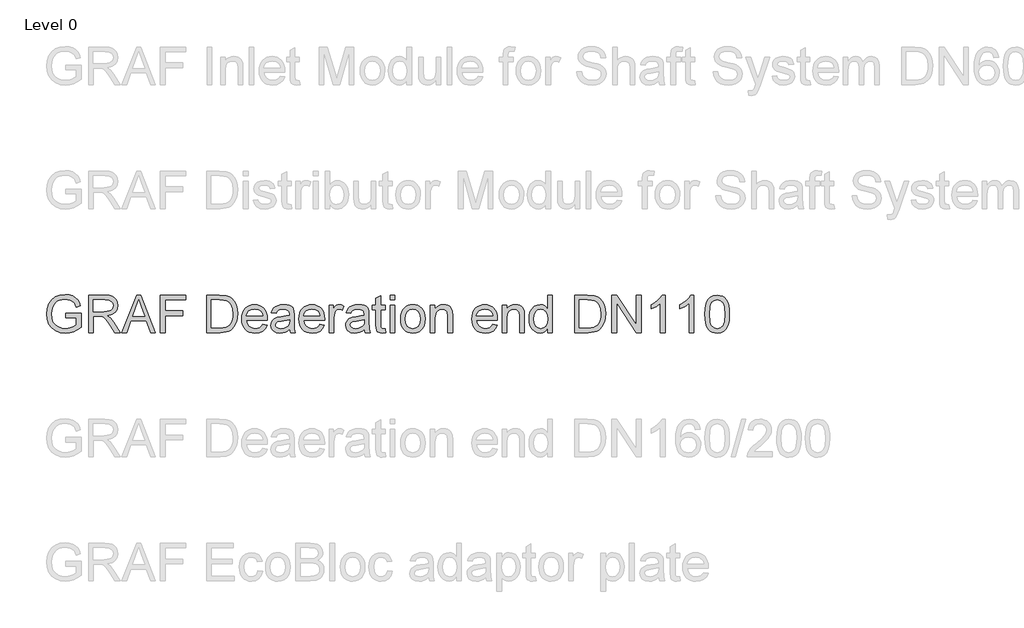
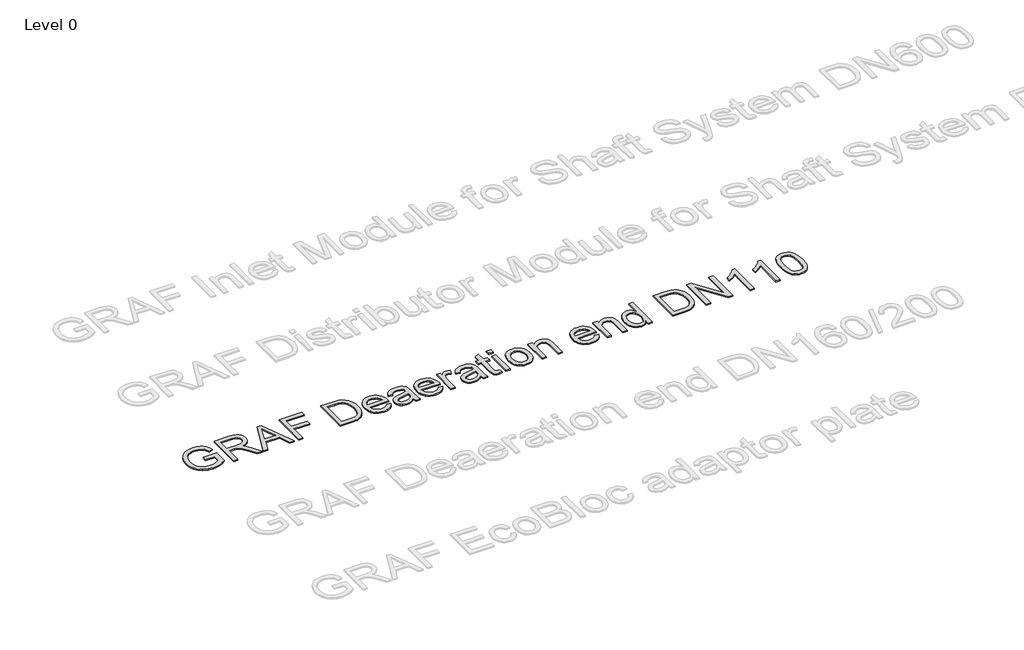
# One storey, part 6 of 25: 1 proxy.
"""IFC4 building model written with IfcOpenShell, lengths in millimetres."""

from ifc_helpers import new_model, si_unit, origin, origin_with_axes, place, context, project, spatial, polyline, outline, extrude, element, save

model = new_model("IFC4")

# Units and contexts
model_context = context("Model", 3, world=origin())
ifc_project = project(units=[si_unit("LENGTHUNIT", "METRE", prefix="MILLI")], contexts=[model_context])

# Site, building, storey
site = spatial("IfcSite", under=ifc_project)
building = spatial("IfcBuilding", under=site)
storey = spatial("IfcBuildingStorey", under=building, Name="Level 0", Elevation=0.0)

# Proxy
placement = place(None, origin())
element("IfcBuildingElementProxy", 1, Name="300mm Arial", ObjectType="300mm Arial", at=placement, inside=storey, context=model_context, shape_type="SweptSolid", body=[
    extrude(outline(polyline([(-15240.9940387, -6083.2545597), (-15240.9940387, -6045.5834434), (-15118.5629107, -6045.5834434), (-15118.5629107, -6158.2289103), (-15148.3153671, -6178.9222726), (-15179.0059225, -6193.7663111), (-15210.5610007, -6202.7058436), (-15242.9070251, -6205.6856877), (-15285.1674693, -6200.949207), (-15323.3628175, -6186.739765), (-15355.0926395, -6163.5540022), (-15377.9565055, -6131.8885595), (-15391.7796715, -6093.9047435), (-15396.3873935, -6051.7638609), (-15391.7980656, -6009.3194757), (-15378.0300819, -5969.8365406), (-15355.6536596, -5936.717964), (-15325.2390156, -5913.3666543), (-15288.1932987, -5899.5158972), (-15245.9236575, -5894.8989782), (-15214.8928112, -5897.5753197), (-15186.9889618, -5905.6043443), (-15163.4904994, -5918.4066377), (-15145.6758138, -5935.4027859), (-15132.4964413, -5957.4113262), (-15122.9039183, -5985.2507962), (-15157.6319786, -5995.0364573), (-15165.3850917, -5975.1800266), (-15174.8120678, -5960.1980323), (-15187.2832674, -5948.9040551), (-15204.169051, -5940.1116754), (-15224.3013932, -5934.4554897), (-15246.5122687, -5932.5700945), (-15272.5123287, -5934.6026425), (-15294.7415982, -5940.7002866), (-15313.1173039, -5950.0996716), (-15327.5566722, -5962.0374423), (-15346.9440533, -5991.0633317), (-15355.7732212, -6019.50061), (-15358.7162772, -6050.2187566), (-15355.175413, -6086.2436009), (-15344.5528204, -6115.8856927), (-15327.1703961, -6138.9334997), (-15303.3500369, -6155.1754898), (-15275.4737787, -6164.804801), (-15245.9236575, -6168.0145714), (-15219.831627, -6165.5957473), (-15194.3833899, -6158.3392749), (-15172.2828791, -6148.3420817), (-15156.234027, -6137.701095), (-15156.234027, -6083.2545597), (-15240.9940387, -6083.2545597)])), origin_with_axes(), (0.0, 0.0, 1.0), 10.0),
    extrude(outline(polyline([(-15057.3473467, -6200.9767982), (-15057.3473467, -5899.6078677), (-14927.4850024, -5899.6078677), (-14892.5821982, -5901.6404158), (-14867.1891434, -5907.7380598), (-14848.6294968, -5918.9952489), (-14834.2269167, -5936.5064318), (-14824.9838815, -5958.2206666), (-14821.9028698, -5982.087011), (-14827.0072325, -6011.7750881), (-14842.3203206, -6036.3863935), (-14853.9200997, -6046.4157764), (-14868.3019865, -6054.4310054), (-14905.4120827, -6064.4190016), (-14884.0013506, -6080.532233), (-14853.467145, -6119.3069952), (-14803.2144645, -6200.9767982), (-14846.9924219, -6200.9767982), (-14886.2086426, -6138.5104354), (-14914.5355562, -6097.1604991), (-14934.4379722, -6077.6259652), (-14952.3538253, -6070.4522663), (-14974.2060158, -6069.1278911), (-15019.6762304, -6069.1278911), (-15019.6762304, -6200.9767982), (-15057.3473467, -6200.9767982)]), holes=[polyline([(-15019.6762304, -6031.4567748), (-14935.3576771, -6031.4567748), (-14911.1418448, -6030.1232026), (-14892.3522719, -6026.1224859), (-14878.2072092, -6019.1879103), (-14867.9249074, -6009.0527613), (-14861.6617165, -5996.7930938), (-14859.5739861, -5983.4849626), (-14863.5563087, -5965.109257), (-14875.5032765, -5950.3020067), (-14896.058683, -5940.5347397), (-14925.8663217, -5937.278984), (-15019.6762304, -5937.278984), (-15019.6762304, -6031.4567748)])]), origin_with_axes(), (0.0, 0.0, 1.0), 10.0),
    extrude(outline(polyline([(-14791.0743586, -6200.9767982), (-14670.7769462, -5899.6078677), (-14638.6976362, -5899.6078677), (-14518.4002238, -6200.9767982), (-14558.2050557, -6200.9767982), (-14592.7123868, -6106.7990074), (-14716.835772, -6106.7990074), (-14751.2695268, -6200.9767982), (-14791.0743586, -6200.9767982)]), holes=[polyline([(-14703.003409, -6069.1278911), (-14606.4711735, -6069.1278911), (-14633.6208647, -5995.0364573), (-14654.7372912, -5937.278984), (-14673.499273, -5988.5617342), (-14703.003409, -6069.1278911)])]), origin_with_axes(), (0.0, 0.0, 1.0), 10.0),
    extrude(outline(polyline([(-14478.1539335, -6200.9767982), (-14478.1539335, -5899.6078677), (-14275.6716834, -5899.6078677), (-14275.6716834, -5937.278984), (-14440.4828172, -5937.278984), (-14440.4828172, -6026.7478853), (-14299.2161311, -6026.7478853), (-14299.2161311, -6064.4190016), (-14440.4828172, -6064.4190016), (-14440.4828172, -6200.9767982), (-14478.1539335, -6200.9767982)])), origin_with_axes(), (0.0, 0.0, 1.0), 10.0),
    extrude(outline(polyline([(-14106.15166, -6200.9767982), (-14106.15166, -5899.6078677), (-14002.1882082, -5899.6078677), (-13948.4038605, -5903.9488753), (-13924.3811662, -5912.3181907), (-13904.1108683, -5925.5067602), (-13883.2703532, -5948.4625967), (-13868.4263147, -5977.0102395), (-13859.5419645, -6010.5978657), (-13856.5805145, -6048.6736522), (-13858.5854714, -6081.0196766), (-13864.600342, -6109.484546), (-13873.7606037, -6133.7187724), (-13885.2017337, -6153.372868), (-13898.3719091, -6168.8882911), (-13912.719307, -6180.7065002), (-13929.1912233, -6189.4712888), (-13948.7349543, -6195.8264502), (-13997.185013, -6200.9767982), (-14106.15166, -6200.9767982)]), holes=[polyline([(-14068.4805437, -6163.3056819), (-14001.8203262, -6163.3056819), (-13974.2475706, -6161.9445185), (-13953.3334792, -6157.8610283), (-13937.5513416, -6151.2943347), (-13925.3744476, -6142.4835609), (-13912.2870456, -6126.1771915), (-13902.4553993, -6105.069962), (-13896.3025729, -6079.069902), (-13894.2516308, -6048.085041), (-13898.2707416, -6007.0294103), (-13910.328074, -5976.7159339), (-13928.1427596, -5955.893813), (-13949.4339301, -5943.3122488), (-13971.1021796, -5938.7873002), (-14002.8503958, -5937.278984), (-14068.4805437, -5937.278984), (-14068.4805437, -6163.3056819)])]), origin_with_axes(), (0.0, 0.0, 1.0), 10.0),
    extrude(outline(polyline([(-13654.5397227, -6135.0523446), (-13617.6043704, -6139.7612342), (-13630.9125016, -6167.5915071), (-13652.1484898, -6188.3952339), (-13680.8340883, -6201.3630743), (-13716.4910507, -6205.6856877), (-13739.865353, -6203.8209859), (-13760.6920724, -6198.2268803), (-13778.9712091, -6188.9033709), (-13794.7027629, -6175.8504579), (-13807.353305, -6159.4314246), (-13816.3894065, -6140.0095545), (-13821.8110674, -6117.5848477), (-13823.6182877, -6092.157304), (-13821.7926733, -6065.8675369), (-13816.3158301, -6042.6955698), (-13807.1877581, -6022.6414025), (-13794.4084573, -6005.7050351), (-13778.7182902, -5992.2497512), (-13760.8576193, -5982.638834), (-13740.8264447, -5976.8722838), (-13718.6247663, -5974.9501003), (-13697.1381585, -5976.8676852), (-13677.7070914, -5982.6204399), (-13660.3315649, -5992.2083644), (-13645.0115791, -6005.6314587), (-13632.5058905, -6022.5310379), (-13623.5732558, -6042.548417), (-13618.213675, -6065.6835959), (-13616.427148, -6091.9365748), (-13616.6478772, -6102.0901179), (-13785.9471714, -6102.0901179), (-13779.426463, -6130.2882728), (-13764.2789219, -6151.0184232), (-13742.4175343, -6163.7655344), (-13715.7552867, -6168.0145714), (-13695.705718, -6166.0464027), (-13678.8199344, -6160.1418967), (-13665.097936, -6149.9331713), (-13654.5397227, -6135.0523446)]), holes=[polyline([(-13785.9471714, -6064.4190016), (-13654.0982643, -6064.4190016), (-13659.19343, -6044.5165856), (-13669.1814261, -6030.2795524), (-13691.1439813, -6017.0358006), (-13718.7719191, -6012.6212166), (-13744.1649738, -6016.1436868), (-13765.1618387, -6026.7110971), (-13779.7575568, -6043.1830134), (-13785.9471714, -6064.4190016)])]), origin_with_axes(), (0.0, 0.0, 1.0), 10.0),
    extrude(outline(polyline([(-13437.4893456, -6172.7234609), (-13455.4879722, -6188.1561106), (-13474.0200277, -6198.2544714), (-13493.5085764, -6203.8278836), (-13514.3766826, -6205.6856877), (-13545.8581843, -6201.2159215), (-13569.0807353, -6187.8066228), (-13583.4005419, -6167.4443543), (-13588.1738108, -6142.1156789), (-13586.371189, -6126.4990883), (-13580.9633237, -6112.3172373), (-13572.6215995, -6100.1771315), (-13562.0174009, -6090.685776), (-13535.6402619, -6078.324941), (-13503.0459171, -6072.6595583), (-13464.5286722, -6066.6998699), (-13437.7100748, -6059.710112), (-13437.4893456, -6051.3224025), (-13440.0829136, -6034.5101954), (-13447.8636178, -6023.5105237), (-13465.2644362, -6015.3435434), (-13489.5078597, -6012.6212166), (-13511.9486614, -6014.4330355), (-13527.6204344, -6019.868492), (-13538.3074064, -6029.9208675), (-13545.793805, -6045.5834434), (-13583.4649213, -6040.8745539), (-13576.9258188, -6020.2731621), (-13567.1677489, -6004.0863544), (-13553.2802036, -5991.7071252), (-13534.3526749, -5982.5284694), (-13511.2037004, -5976.8446926), (-13484.6518174, -5974.9501003), (-13459.1851862, -5976.6239634), (-13438.9976618, -5981.6455527), (-13423.7765442, -5989.1963306), (-13413.2091339, -5998.4577598), (-13406.2009819, -6009.9080869), (-13401.6576393, -6024.0255585), (-13399.8182293, -6056.9877853), (-13399.8182293, -6103.8559515), (-13397.9052429, -6169.3021584), (-13390.4004502, -6200.9767982), (-13428.0715665, -6200.9767982), (-13437.4893456, -6172.7234609)]), holes=[polyline([(-13437.4893456, -6097.3812283), (-13498.2634512, -6108.932723), (-13530.673855, -6115.0395641), (-13545.3523466, -6124.972378), (-13550.5026945, -6139.4669286), (-13547.6975943, -6150.6689353), (-13539.2822936, -6159.8475911), (-13525.4407336, -6165.9728263), (-13506.3568551, -6168.0145714), (-13486.1233453, -6165.7612942), (-13468.2442804, -6159.0014625), (-13453.7497298, -6149.0410575), (-13443.6697631, -6137.1860602), (-13439.1999969, -6124.972378), (-13437.7100748, -6108.0498062), (-13437.4893456, -6097.3812283)])]), origin_with_axes(), (0.0, 0.0, 1.0), 10.0),
    extrude(outline(polyline([(-13193.068548, -6135.0523446), (-13156.1331957, -6139.7612342), (-13169.4413268, -6167.5915071), (-13190.677315, -6188.3952339), (-13219.3629136, -6201.3630743), (-13255.019876, -6205.6856877), (-13278.3941782, -6203.8209859), (-13299.2208977, -6198.2268803), (-13317.5000343, -6188.9033709), (-13333.2315881, -6175.8504579), (-13345.8821303, -6159.4314246), (-13354.9182318, -6140.0095545), (-13360.3398927, -6117.5848477), (-13362.147113, -6092.157304), (-13360.3214986, -6065.8675369), (-13354.8446554, -6042.6955698), (-13345.7165834, -6022.6414025), (-13332.9372826, -6005.7050351), (-13317.2471155, -5992.2497512), (-13299.3864446, -5982.638834), (-13279.35527, -5976.8722838), (-13257.1535915, -5974.9501003), (-13235.6669838, -5976.8676852), (-13216.2359166, -5982.6204399), (-13198.8603901, -5992.2083644), (-13183.5404043, -6005.6314587), (-13171.0347157, -6022.5310379), (-13162.102081, -6042.548417), (-13156.7425002, -6065.6835959), (-13154.9559733, -6091.9365748), (-13155.1767025, -6102.0901179), (-13324.4759967, -6102.0901179), (-13317.9552883, -6130.2882728), (-13302.8077471, -6151.0184232), (-13280.9463596, -6163.7655344), (-13254.284112, -6168.0145714), (-13234.2345432, -6166.0464027), (-13217.3487597, -6160.1418967), (-13203.6267612, -6149.9331713), (-13193.068548, -6135.0523446)]), holes=[polyline([(-13324.4759967, -6064.4190016), (-13192.6270896, -6064.4190016), (-13197.7222552, -6044.5165856), (-13207.7102514, -6030.2795524), (-13229.6728065, -6017.0358006), (-13257.3007443, -6012.6212166), (-13282.6937991, -6016.1436868), (-13303.6906639, -6026.7110971), (-13318.2863821, -6043.1830134), (-13324.4759967, -6064.4190016)])]), origin_with_axes(), (0.0, 0.0, 1.0), 10.0),
    extrude(outline(polyline([(-13117.284857, -6200.9767982), (-13117.284857, -5979.6589899), (-13084.3226302, -5979.6589899), (-13084.3226302, -6012.4004875), (-13072.1457362, -5993.4177765), (-13060.9253353, -5982.2341638), (-13049.6681463, -5976.7711162), (-13037.3808876, -5974.9501003), (-13018.6189059, -5977.8563681), (-12999.5626185, -5986.5751714), (-13012.1441828, -6020.3467385), (-13025.3879346, -6014.5525971), (-13038.6316864, -6012.6212166), (-13049.8796784, -6014.4790207), (-13059.9320539, -6020.052433), (-13068.053049, -6028.918389), (-13073.5068996, -6040.6538247), (-13078.0870304, -6061.6966748), (-13079.6137407, -6084.6525113), (-13079.6137407, -6200.9767982), (-13117.284857, -6200.9767982)])), origin_with_axes(), (0.0, 0.0, 1.0), 10.0),
    extrude(outline(polyline([(-12834.7514847, -6172.7234609), (-12852.7501113, -6188.1561106), (-12871.2821668, -6198.2544714), (-12890.7707155, -6203.8278836), (-12911.6388217, -6205.6856877), (-12943.1203234, -6201.2159215), (-12966.3428744, -6187.8066228), (-12980.662681, -6167.4443543), (-12985.4359499, -6142.1156789), (-12983.6333281, -6126.4990883), (-12978.2254628, -6112.3172373), (-12969.8837386, -6100.1771315), (-12959.2795401, -6090.685776), (-12932.902401, -6078.324941), (-12900.3080562, -6072.6595583), (-12861.7908113, -6066.6998699), (-12834.9722139, -6059.710112), (-12834.7514847, -6051.3224025), (-12837.3450527, -6034.5101954), (-12845.1257569, -6023.5105237), (-12862.5265753, -6015.3435434), (-12886.7699988, -6012.6212166), (-12909.2108005, -6014.4330355), (-12924.8825735, -6019.868492), (-12935.5695455, -6029.9208675), (-12943.0559441, -6045.5834434), (-12980.7270604, -6040.8745539), (-12974.1879579, -6020.2731621), (-12964.429888, -6004.0863544), (-12950.5423427, -5991.7071252), (-12931.614814, -5982.5284694), (-12908.4658395, -5976.8446926), (-12881.9139565, -5974.9501003), (-12856.4473253, -5976.6239634), (-12836.2598009, -5981.6455527), (-12821.0386833, -5989.1963306), (-12810.471273, -5998.4577598), (-12803.463121, -6009.9080869), (-12798.9197784, -6024.0255585), (-12797.0803684, -6056.9877853), (-12797.0803684, -6103.8559515), (-12795.167382, -6169.3021584), (-12787.6625893, -6200.9767982), (-12825.3337056, -6200.9767982), (-12834.7514847, -6172.7234609)]), holes=[polyline([(-12834.7514847, -6097.3812283), (-12895.5255903, -6108.932723), (-12927.9359941, -6115.0395641), (-12942.6144857, -6124.972378), (-12947.7648336, -6139.4669286), (-12944.9597334, -6150.6689353), (-12936.5444327, -6159.8475911), (-12922.7028727, -6165.9728263), (-12903.6189942, -6168.0145714), (-12883.3854844, -6165.7612942), (-12865.5064195, -6159.0014625), (-12851.0118689, -6149.0410575), (-12840.9319022, -6137.1860602), (-12836.462136, -6124.972378), (-12834.9722139, -6108.0498062), (-12834.7514847, -6097.3812283)])]), origin_with_axes(), (0.0, 0.0, 1.0), 10.0),
    extrude(outline(polyline([(-12665.2314613, -6169.5596758), (-12660.5225718, -6202.0804442), (-12688.7023326, -6205.6856877), (-12706.7837327, -6204.1221892), (-12720.2666078, -6199.4316938), (-12729.7947515, -6192.2028126), (-12736.0119572, -6183.0241568), (-12739.4332597, -6167.2604133), (-12740.5736939, -6140.276269), (-12740.5736939, -6017.3301062), (-12768.8270311, -6017.3301062), (-12768.8270311, -5979.6589899), (-12740.5736939, -5979.6589899), (-12740.5736939, -5925.8746422), (-12702.9025776, -5903.7281461), (-12702.9025776, -5979.6589899), (-12665.2314613, -5979.6589899), (-12665.2314613, -6017.3301062), (-12702.9025776, -6017.3301062), (-12702.9025776, -6139.172623), (-12700.9160148, -6158.5967923), (-12694.4780799, -6165.4761856), (-12681.6389983, -6168.0145714), (-12665.2314613, -6169.5596758)])), origin_with_axes(), (0.0, 0.0, 1.0), 10.0),
    extrude(outline(polyline([(-12627.560345, -5937.278984), (-12627.560345, -5899.6078677), (-12589.8892287, -5899.6078677), (-12589.8892287, -5937.278984), (-12627.560345, -5937.278984)])), origin_with_axes(), (0.0, 0.0, 1.0), 10.0),
    extrude(outline(polyline([(-12627.560345, -6200.9767982), (-12627.560345, -5979.6589899), (-12589.8892287, -5979.6589899), (-12589.8892287, -6200.9767982), (-12627.560345, -6200.9767982)])), origin_with_axes(), (0.0, 0.0, 1.0), 10.0),
    extrude(outline(polyline([(-12542.8003333, -6090.317894), (-12540.7631868, -6061.6552881), (-12534.6517471, -6036.9566106), (-12524.4660144, -6016.2218617), (-12510.2059885, -5999.4510412), (-12495.8493937, -5988.7318796), (-12480.0028767, -5981.0753356), (-12462.6664377, -5976.4814091), (-12443.8400766, -5974.9501003), (-12423.0570431, -5976.8148022), (-12404.265171, -5982.4089078), (-12387.4644601, -5991.7324171), (-12372.6549105, -6004.7853302), (-12360.5676877, -6021.1261885), (-12351.9339572, -6040.3135338), (-12346.7537188, -6062.3473661), (-12345.0269727, -6087.2276853), (-12348.0803933, -6125.2850777), (-12357.2406549, -6154.2557848), (-12372.2410433, -6175.9516255), (-12392.8148439, -6192.1844185), (-12417.2514054, -6202.3103704), (-12443.8400766, -6205.6856877), (-12464.9266127, -6203.8278836), (-12483.8932288, -6198.2544714), (-12500.739925, -6188.965451), (-12515.4667011, -6175.9608225), (-12527.4251652, -6159.461315), (-12535.9669253, -6139.6876578), (-12541.0919813, -6116.6398508), (-12542.8003333, -6090.317894)]), holes=[polyline([(-12505.129217, -6090.2443176), (-12500.7698154, -6124.3377815), (-12487.6916104, -6148.6271903), (-12468.0099237, -6163.1677261), (-12443.8400766, -6168.0145714), (-12419.7805941, -6163.140135), (-12400.1356956, -6148.5168257), (-12387.0574907, -6123.9055202), (-12382.698089, -6089.0670952), (-12387.0850818, -6055.9669127), (-12400.2460602, -6032.0085978), (-12419.9185499, -6017.4680619), (-12443.8400766, -6012.6212166), (-12468.0099237, -6017.4496678), (-12487.6916104, -6031.9350214), (-12500.7698154, -6056.1692478), (-12505.129217, -6090.2443176)])]), origin_with_axes(), (0.0, 0.0, 1.0), 10.0),
    extrude(outline(polyline([(-12302.6469669, -6200.9767982), (-12302.6469669, -5979.6589899), (-12264.9758506, -5979.6589899), (-12264.9758506, -6010.5610775), (-12251.8884486, -5994.981275), (-12236.1706903, -5983.8528446), (-12217.8225758, -5977.1757864), (-12196.844105, -5974.9501003), (-12178.2752613, -5976.7435251), (-12161.2699161, -5982.1237992), (-12147.0880652, -5990.4195382), (-12136.9897044, -6000.9593574), (-12125.6957272, -6028.6608716), (-12123.7091644, -6065.0811892), (-12123.7091644, -6200.9767982), (-12161.3802807, -6200.9767982), (-12161.3802807, -6070.1579607), (-12165.7212883, -6036.8278519), (-12171.7269618, -6026.9042351), (-12181.0619675, -6019.2063044), (-12193.0273293, -6014.2674886), (-12206.9240717, -6012.6212166), (-12228.9877944, -6016.3184307), (-12247.7957614, -6027.4100729), (-12255.3120504, -6036.4645685), (-12260.6808283, -6048.8391991), (-12264.9758506, -6083.5488653), (-12264.9758506, -6200.9767982), (-12302.6469669, -6200.9767982)])), origin_with_axes(), (0.0, 0.0, 1.0), 10.0),
    extrude(outline(polyline([(-11799.2372447, -6135.0523446), (-11762.3018923, -6139.7612342), (-11775.6100235, -6167.5915071), (-11796.8460117, -6188.3952339), (-11825.5316103, -6201.3630743), (-11861.1885726, -6205.6856877), (-11884.5628749, -6203.8209859), (-11905.3895944, -6198.2268803), (-11923.668731, -6188.9033709), (-11939.4002848, -6175.8504579), (-11952.0508269, -6159.4314246), (-11961.0869284, -6140.0095545), (-11966.5085893, -6117.5848477), (-11968.3158096, -6092.157304), (-11966.4901952, -6065.8675369), (-11961.013352, -6042.6955698), (-11951.88528, -6022.6414025), (-11939.1059792, -6005.7050351), (-11923.4158121, -5992.2497512), (-11905.5551413, -5982.638834), (-11885.5239666, -5976.8722838), (-11863.3222882, -5974.9501003), (-11841.8356804, -5976.8676852), (-11822.4046133, -5982.6204399), (-11805.0290868, -5992.2083644), (-11789.709101, -6005.6314587), (-11777.2034124, -6022.5310379), (-11768.2707777, -6042.548417), (-11762.9111969, -6065.6835959), (-11761.12467, -6091.9365748), (-11761.3453992, -6102.0901179), (-11930.6446933, -6102.0901179), (-11924.123985, -6130.2882728), (-11908.9764438, -6151.0184232), (-11887.1150563, -6163.7655344), (-11860.4528087, -6168.0145714), (-11840.4032399, -6166.0464027), (-11823.5174563, -6160.1418967), (-11809.7954579, -6149.9331713), (-11799.2372447, -6135.0523446)]), holes=[polyline([(-11930.6446933, -6064.4190016), (-11798.7957863, -6064.4190016), (-11803.8909519, -6044.5165856), (-11813.8789481, -6030.2795524), (-11835.8415032, -6017.0358006), (-11863.469441, -6012.6212166), (-11888.8624957, -6016.1436868), (-11909.8593606, -6026.7110971), (-11924.4550788, -6043.1830134), (-11930.6446933, -6064.4190016)])]), origin_with_axes(), (0.0, 0.0, 1.0), 10.0),
    extrude(outline(polyline([(-11723.4535537, -6200.9767982), (-11723.4535537, -5979.6589899), (-11685.7824373, -5979.6589899), (-11685.7824373, -6010.5610775), (-11672.6950354, -5994.981275), (-11656.9772771, -5983.8528446), (-11638.6291626, -5977.1757864), (-11617.6506918, -5974.9501003), (-11599.0818481, -5976.7435251), (-11582.0765029, -5982.1237992), (-11567.894652, -5990.4195382), (-11557.7962912, -6000.9593574), (-11546.502314, -6028.6608716), (-11544.5157512, -6065.0811892), (-11544.5157512, -6200.9767982), (-11582.1868675, -6200.9767982), (-11582.1868675, -6070.1579607), (-11586.527875, -6036.8278519), (-11592.5335486, -6026.9042351), (-11601.8685542, -6019.2063044), (-11613.8339161, -6014.2674886), (-11627.7306585, -6012.6212166), (-11649.7943812, -6016.3184307), (-11668.6023482, -6027.4100729), (-11676.1186372, -6036.4645685), (-11681.4874151, -6048.8391991), (-11685.7824373, -6083.5488653), (-11685.7824373, -6200.9767982), (-11723.4535537, -6200.9767982)])), origin_with_axes(), (0.0, 0.0, 1.0), 10.0),
    extrude(outline(polyline([(-11356.1601697, -6200.9767982), (-11356.1601697, -6165.4393974), (-11367.4311543, -6183.0471494), (-11381.0841748, -6195.6241151), (-11397.1192313, -6203.1702946), (-11415.5363237, -6205.6856877), (-11439.8901118, -6202.043656), (-11462.1837607, -6191.1175607), (-11481.056107, -6173.6707571), (-11495.1459874, -6150.4666002), (-11503.919973, -6122.4431893), (-11506.8446349, -6090.5386232), (-11504.1498993, -6059.0295303), (-11496.0656924, -6030.573858), (-11482.6012114, -6006.790287), (-11463.7656533, -5989.2974982), (-11440.9845607, -5978.5369498), (-11415.6834765, -5974.9501003), (-11397.2525885, -5977.5160773), (-11380.9554161, -5985.214008), (-11367.1414472, -5997.013823), (-11356.1601697, -6011.8854527), (-11356.1601697, -5899.6078677), (-11318.4890534, -5899.6078677), (-11318.4890534, -6200.9767982), (-11356.1601697, -6200.9767982)]), holes=[polyline([(-11469.1735186, -6090.3914704), (-11464.9244815, -6124.4665402), (-11452.1773704, -6148.7007667), (-11433.654512, -6163.1861202), (-11412.0782329, -6168.0145714), (-11390.511151, -6163.4068494), (-11372.4573421, -6149.5836835), (-11360.2344628, -6126.2875561), (-11356.1601697, -6093.26095), (-11360.3080392, -6057.1533322), (-11372.7516477, -6032.1189624), (-11391.2653091, -6017.4956531), (-11413.6233373, -6012.6212166), (-11435.4203455, -6017.302515), (-11453.2810164, -6031.3464102), (-11465.200393, -6055.470272), (-11469.1735186, -6090.3914704)])]), origin_with_axes(), (0.0, 0.0, 1.0), 10.0),
    extrude(outline(polyline([(-11139.5512509, -6200.9767982), (-11139.5512509, -5899.6078677), (-11035.5877991, -5899.6078677), (-10981.8034514, -5903.9488753), (-10957.7807571, -5912.3181907), (-10937.5104592, -5925.5067602), (-10916.6699441, -5948.4625967), (-10901.8259056, -5977.0102395), (-10892.9415554, -6010.5978657), (-10889.9801054, -6048.6736522), (-10891.9850623, -6081.0196766), (-10897.9999329, -6109.484546), (-10907.1601946, -6133.7187724), (-10918.6013246, -6153.372868), (-10931.7715, -6168.8882911), (-10946.1188978, -6180.7065002), (-10962.5908142, -6189.4712888), (-10982.1345452, -6195.8264502), (-11030.5846039, -6200.9767982), (-11139.5512509, -6200.9767982)]), holes=[polyline([(-11101.8801346, -6163.3056819), (-11035.2199171, -6163.3056819), (-11007.6471615, -6161.9445185), (-10986.7330701, -6157.8610283), (-10970.9509325, -6151.2943347), (-10958.7740385, -6142.4835609), (-10945.6866365, -6126.1771915), (-10935.8549902, -6105.069962), (-10929.7021638, -6079.069902), (-10927.6512217, -6048.085041), (-10931.6703325, -6007.0294103), (-10943.7276649, -5976.7159339), (-10961.5423505, -5955.893813), (-10982.833521, -5943.3122488), (-11004.5017705, -5938.7873002), (-11036.2499867, -5937.278984), (-11101.8801346, -5937.278984), (-11101.8801346, -6163.3056819)])]), origin_with_axes(), (0.0, 0.0, 1.0), 10.0),
    extrude(outline(polyline([(-10838.1823205, -6200.9767982), (-10838.1823205, -5899.6078677), (-10797.8624538, -5899.6078677), (-10640.4089599, -6138.3632826), (-10640.4089599, -5899.6078677), (-10602.7378435, -5899.6078677), (-10602.7378435, -6200.9767982), (-10643.0577102, -6200.9767982), (-10800.5112042, -5962.1478069), (-10800.5112042, -6200.9767982), (-10838.1823205, -6200.9767982)])), origin_with_axes(), (0.0, 0.0, 1.0), 10.0),
    extrude(outline(polyline([(-10409.6733725, -6200.9767982), (-10447.3444888, -6200.9767982), (-10447.3444888, -5966.1209325), (-10483.0290423, -5991.5415783), (-10522.6867214, -6010.5610775), (-10522.6867214, -5974.9501003), (-10493.0998119, -5958.8552631), (-10467.4676339, -5939.7070052), (-10447.2617153, -5919.3447368), (-10433.9535842, -5899.6078677), (-10409.6733725, -5899.6078677), (-10409.6733725, -6200.9767982)])), origin_with_axes(), (0.0, 0.0, 1.0), 10.0),
    extrude(outline(polyline([(-10178.9377851, -6200.9767982), (-10216.6089014, -6200.9767982), (-10216.6089014, -5966.1209325), (-10252.2934549, -5991.5415783), (-10291.951134, -6010.5610775), (-10291.951134, -5974.9501003), (-10262.3642246, -5958.8552631), (-10236.7320465, -5939.7070052), (-10216.526128, -5919.3447368), (-10203.2179968, -5899.6078677), (-10178.9377851, -5899.6078677), (-10178.9377851, -6200.9767982)])), origin_with_axes(), (0.0, 0.0, 1.0), 10.0),
    extrude(outline(polyline([(-10089.4688839, -6052.7203541), (-10086.7005719, -6004.4818275), (-10078.3956358, -5966.0105679), (-10064.6368492, -5936.717964), (-10045.5069855, -5916.0154047), (-10020.8680888, -5903.709752), (-9990.5822036, -5899.6078677), (-9967.3688497, -5902.0358889), (-9946.5835169, -5909.3199524), (-9929.2010927, -5921.1749497), (-9916.1964641, -5937.3157722), (-9906.3740149, -5957.6044643), (-9898.5381284, -5981.9030701), (-9893.4061745, -6012.7591724), (-9891.6955233, -6052.7203541), (-9894.4362441, -6100.6829692), (-9902.6584067, -6139.0622584), (-9916.3344199, -6168.3824534), (-9935.4366925, -6189.1677861), (-9960.1307714, -6201.5562123), (-9990.5822036, -6205.6856877), (-10011.3307481, -6203.892263), (-10029.7248479, -6198.5119888), (-10045.7645028, -6189.5448652), (-10059.4497131, -6176.9908921), (-10072.5831003, -6154.2971715), (-10081.9640912, -6126.0208417), (-10087.5926857, -6092.1619025), (-10089.4688839, -6052.7203541)]), holes=[polyline([(-10051.7977676, -6052.6467777), (-10047.3831836, -6111.9033701), (-10041.8649537, -6132.1713688), (-10034.1394318, -6146.1991691), (-10014.4209569, -6162.5607208), (-9990.5822036, -6168.0145714), (-9966.7434503, -6162.5423267), (-9947.0249753, -6146.1255927), (-9939.2994534, -6132.0747997), (-9933.7812235, -6111.8113996), (-9929.3666396, -6052.6467777), (-9933.6340707, -5994.7237576), (-9938.9683596, -5974.5224375), (-9946.4363642, -5960.1612441), (-9966.1180509, -5942.9995491), (-9991.023662, -5937.278984), (-10014.6048979, -5942.3189674), (-10033.5508206, -5957.4389174), (-10041.5338599, -5973.0739022), (-10047.2360308, -5994.1535405), (-10051.7977676, -6052.6467777)])]), origin_with_axes(), (0.0, 0.0, 1.0), 10.0),
])

save(model, "model.ifc")
